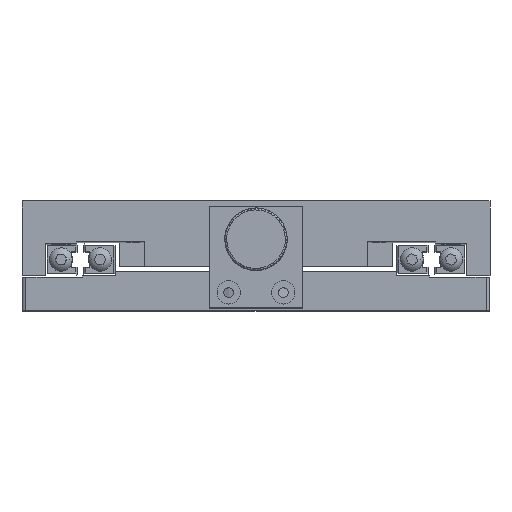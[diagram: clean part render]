
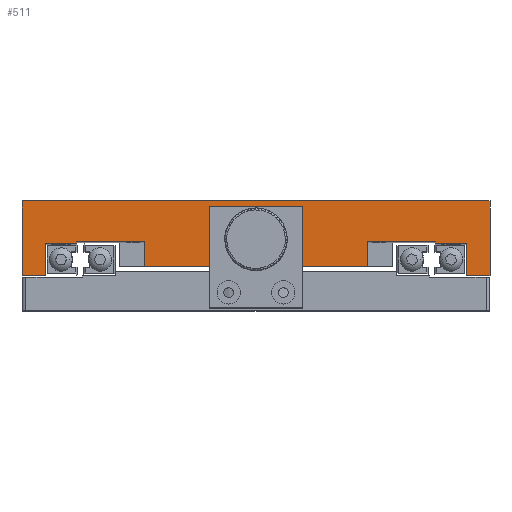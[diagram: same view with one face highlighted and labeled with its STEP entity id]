
A CAD part, top view. The second image highlights one B-rep face of the part: STEP entity #511.
In plain terms, the highlighted planar face has unit normal (0, 0, 1).
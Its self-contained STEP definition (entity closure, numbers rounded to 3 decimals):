
#511 = ADVANCED_FACE ( 'NONE', ( #6539, #6545 ), #7126, .F. ) ;
#714 = VERTEX_POINT ( 'NONE', #7798 ) ;
#720 = VERTEX_POINT ( 'NONE', #7804 ) ;
#759 = VERTEX_POINT ( 'NONE', #7843 ) ;
#762 = VERTEX_POINT ( 'NONE', #7846 ) ;
#763 = VERTEX_POINT ( 'NONE', #7847 ) ;
#765 = VERTEX_POINT ( 'NONE', #7849 ) ;
#768 = VERTEX_POINT ( 'NONE', #7852 ) ;
#771 = VERTEX_POINT ( 'NONE', #7855 ) ;
#772 = VERTEX_POINT ( 'NONE', #7856 ) ;
#777 = VERTEX_POINT ( 'NONE', #7861 ) ;
#784 = VERTEX_POINT ( 'NONE', #7868 ) ;
#786 = VERTEX_POINT ( 'NONE', #7870 ) ;
#788 = VERTEX_POINT ( 'NONE', #7872 ) ;
#791 = VERTEX_POINT ( 'NONE', #7875 ) ;
#793 = VERTEX_POINT ( 'NONE', #7877 ) ;
#796 = VERTEX_POINT ( 'NONE', #7880 ) ;
#1122 = EDGE_LOOP ( 'NONE', ( #1918 ) ) ;
#1161 = EDGE_LOOP ( 'NONE', ( #1919, #1920, #1921, #1922, #1923, #1924, #1925, #1926, #1927, #1928, #1929, #1930, #1931, #1932, #1933, #1934 ) ) ;
#1498 = EDGE_CURVE ( 'NONE', #759, #720, #8213, .T. ) ;
#1515 = EDGE_CURVE ( 'NONE', #720, #714, #8221, .T. ) ;
#1535 = EDGE_CURVE ( 'NONE', #763, #762, #8240, .T. ) ;
#1539 = EDGE_CURVE ( 'NONE', #763, #765, #8262, .T. ) ;
#1592 = EDGE_CURVE ( 'NONE', #765, #768, #8332, .T. ) ;
#1605 = EDGE_CURVE ( 'NONE', #762, #772, #8336, .T. ) ;
#1608 = EDGE_CURVE ( 'NONE', #772, #771, #8355, .T. ) ;
#1622 = EDGE_CURVE ( 'NONE', #784, #788, #8383, .T. ) ;
#1641 = EDGE_CURVE ( 'NONE', #777, #788, #8387, .T. ) ;
#1648 = EDGE_CURVE ( 'NONE', #777, #791, #8415, .T. ) ;
#1653 = EDGE_CURVE ( 'NONE', #771, #791, #8419, .T. ) ;
#1666 = EDGE_CURVE ( 'NONE', #768, #786, #8411, .T. ) ;
#1670 = EDGE_CURVE ( 'NONE', #784, #759, #8442, .T. ) ;
#1672 = EDGE_CURVE ( 'NONE', #15323, #15323, #8447, .T. ) ;
#1673 = EDGE_CURVE ( 'NONE', #786, #793, #8450, .T. ) ;
#1674 = EDGE_CURVE ( 'NONE', #793, #796, #8449, .T. ) ;
#1675 = EDGE_CURVE ( 'NONE', #714, #796, #8453, .T. ) ;
#1918 = ORIENTED_EDGE ( 'NONE', *, *, #1672, .F. ) ;
#1919 = ORIENTED_EDGE ( 'NONE', *, *, #1670, .F. ) ;
#1920 = ORIENTED_EDGE ( 'NONE', *, *, #1622, .T. ) ;
#1921 = ORIENTED_EDGE ( 'NONE', *, *, #1641, .F. ) ;
#1922 = ORIENTED_EDGE ( 'NONE', *, *, #1648, .T. ) ;
#1923 = ORIENTED_EDGE ( 'NONE', *, *, #1653, .F. ) ;
#1924 = ORIENTED_EDGE ( 'NONE', *, *, #1608, .F. ) ;
#1925 = ORIENTED_EDGE ( 'NONE', *, *, #1605, .F. ) ;
#1926 = ORIENTED_EDGE ( 'NONE', *, *, #1535, .F. ) ;
#1927 = ORIENTED_EDGE ( 'NONE', *, *, #1539, .T. ) ;
#1928 = ORIENTED_EDGE ( 'NONE', *, *, #1592, .T. ) ;
#1929 = ORIENTED_EDGE ( 'NONE', *, *, #1666, .T. ) ;
#1930 = ORIENTED_EDGE ( 'NONE', *, *, #1673, .T. ) ;
#1931 = ORIENTED_EDGE ( 'NONE', *, *, #1674, .T. ) ;
#1932 = ORIENTED_EDGE ( 'NONE', *, *, #1675, .F. ) ;
#1933 = ORIENTED_EDGE ( 'NONE', *, *, #1515, .F. ) ;
#1934 = ORIENTED_EDGE ( 'NONE', *, *, #1498, .F. ) ;
#5878 = AXIS2_PLACEMENT_3D ( 'NONE', #7124, #7131, #7132 ) ;
#6539 = FACE_BOUND ( 'NONE', #1122, .T. ) ;
#6545 = FACE_OUTER_BOUND ( 'NONE', #1161, .T. ) ;
#7124 = CARTESIAN_POINT ( 'NONE',  ( -21.395, 4.305, 60. ) ) ;
#7126 = PLANE ( 'NONE',  #5878 ) ;
#7131 = DIRECTION ( 'NONE',  ( 0., 0., -1. ) ) ;
#7132 = DIRECTION ( 'NONE',  ( 1., 0., 0. ) ) ;
#7798 = CARTESIAN_POINT ( 'NONE',  ( -75.395, 2.805, 60. ) ) ;
#7804 = CARTESIAN_POINT ( 'NONE',  ( -67.395, 2.805, 60. ) ) ;
#7843 = CARTESIAN_POINT ( 'NONE',  ( -67.395, 3.305, 60. ) ) ;
#7846 = CARTESIAN_POINT ( 'NONE',  ( 32.605, 2.805, 60. ) ) ;
#7847 = CARTESIAN_POINT ( 'NONE',  ( 32.605, -5.195, 60. ) ) ;
#7849 = CARTESIAN_POINT ( 'NONE',  ( 38.605, -5.195, 60. ) ) ;
#7852 = CARTESIAN_POINT ( 'NONE',  ( 38.605, 13.805, 60. ) ) ;
#7855 = CARTESIAN_POINT ( 'NONE',  ( 24.605, 3.305, 60. ) ) ;
#7856 = CARTESIAN_POINT ( 'NONE',  ( 24.605, 2.805, 60. ) ) ;
#7861 = CARTESIAN_POINT ( 'NONE',  ( 7.105, -2.895, 60. ) ) ;
#7868 = CARTESIAN_POINT ( 'NONE',  ( -49.895, 3.305, 60. ) ) ;
#7870 = CARTESIAN_POINT ( 'NONE',  ( -81.395, 13.805, 60. ) ) ;
#7872 = CARTESIAN_POINT ( 'NONE',  ( -49.895, -2.895, 60. ) ) ;
#7875 = CARTESIAN_POINT ( 'NONE',  ( 7.105, 3.305, 60. ) ) ;
#7877 = CARTESIAN_POINT ( 'NONE',  ( -81.395, -5.195, 60. ) ) ;
#7880 = CARTESIAN_POINT ( 'NONE',  ( -75.395, -5.195, 60. ) ) ;
#7979 = CARTESIAN_POINT ( 'NONE',  ( -67.395, 3.305, 60. ) ) ;
#8042 = DIRECTION ( 'NONE',  ( 0., -1., 0. ) ) ;
#8073 = CARTESIAN_POINT ( 'NONE',  ( -67.395, 2.805, 60. ) ) ;
#8087 = DIRECTION ( 'NONE',  ( -1., 0., 0. ) ) ;
#8130 = CARTESIAN_POINT ( 'NONE',  ( 32.605, -5.195, 60. ) ) ;
#8146 = DIRECTION ( 'NONE',  ( 0., 1., 0. ) ) ;
#8151 = CARTESIAN_POINT ( 'NONE',  ( 38.605, -5.195, 60. ) ) ;
#8153 = DIRECTION ( 'NONE',  ( 1., 0., 0. ) ) ;
#8213 = LINE ( 'NONE', #7979, #8214 ) ;
#8214 = VECTOR ( 'NONE', #8042, 1000. ) ;
#8221 = LINE ( 'NONE', #8073, #8235 ) ;
#8235 = VECTOR ( 'NONE', #8087, 1000. ) ;
#8240 = LINE ( 'NONE', #8130, #8258 ) ;
#8258 = VECTOR ( 'NONE', #8146, 1000. ) ;
#8262 = LINE ( 'NONE', #8151, #8265 ) ;
#8265 = VECTOR ( 'NONE', #8153, 1000. ) ;
#8332 = LINE ( 'NONE', #8861, #8339 ) ;
#8336 = LINE ( 'NONE', #8945, #8353 ) ;
#8339 = VECTOR ( 'NONE', #8873, 1000. ) ;
#8353 = VECTOR ( 'NONE', #8960, 1000. ) ;
#8355 = LINE ( 'NONE', #8965, #8358 ) ;
#8358 = VECTOR ( 'NONE', #8966, 1000. ) ;
#8383 = LINE ( 'NONE', #8991, #8386 ) ;
#8386 = VECTOR ( 'NONE', #8992, 1000. ) ;
#8387 = LINE ( 'NONE', #9035, #8407 ) ;
#8407 = VECTOR ( 'NONE', #9049, 1000. ) ;
#8411 = LINE ( 'NONE', #9111, #8441 ) ;
#8415 = LINE ( 'NONE', #9063, #8418 ) ;
#8418 = VECTOR ( 'NONE', #9064, 1000. ) ;
#8419 = LINE ( 'NONE', #9065, #8425 ) ;
#8425 = VECTOR ( 'NONE', #9079, 1000. ) ;
#8441 = VECTOR ( 'NONE', #9113, 1000. ) ;
#8442 = LINE ( 'NONE', #9115, #8446 ) ;
#8446 = VECTOR ( 'NONE', #9114, 1000. ) ;
#8447 = CIRCLE ( 'NONE', #9284, 4. ) ;
#8449 = LINE ( 'NONE', #9119, #8451 ) ;
#8450 = LINE ( 'NONE', #9123, #8452 ) ;
#8451 = VECTOR ( 'NONE', #9134, 1000. ) ;
#8452 = VECTOR ( 'NONE', #9132, 1000. ) ;
#8453 = LINE ( 'NONE', #9135, #8455 ) ;
#8455 = VECTOR ( 'NONE', #9136, 1000. ) ;
#8861 = CARTESIAN_POINT ( 'NONE',  ( 38.605, 13.805, 60. ) ) ;
#8873 = DIRECTION ( 'NONE',  ( 0., 1., 0. ) ) ;
#8945 = CARTESIAN_POINT ( 'NONE',  ( 32.605, 2.805, 60. ) ) ;
#8960 = DIRECTION ( 'NONE',  ( -1., 0., 0. ) ) ;
#8965 = CARTESIAN_POINT ( 'NONE',  ( 24.605, 2.805, 60. ) ) ;
#8966 = DIRECTION ( 'NONE',  ( 0., 1., 0. ) ) ;
#8991 = CARTESIAN_POINT ( 'NONE',  ( -49.895, 4.305, 60. ) ) ;
#8992 = DIRECTION ( 'NONE',  ( 0., -1., 0. ) ) ;
#9035 = CARTESIAN_POINT ( 'NONE',  ( 13.605, -2.895, 60. ) ) ;
#9049 = DIRECTION ( 'NONE',  ( -1., 0., 0. ) ) ;
#9063 = CARTESIAN_POINT ( 'NONE',  ( 7.105, 4.305, 60. ) ) ;
#9064 = DIRECTION ( 'NONE',  ( 0., 1., 0. ) ) ;
#9065 = CARTESIAN_POINT ( 'NONE',  ( 24.605, 3.305, 60. ) ) ;
#9079 = DIRECTION ( 'NONE',  ( -1., 0., 0. ) ) ;
#9111 = CARTESIAN_POINT ( 'NONE',  ( 38.605, 13.805, 60. ) ) ;
#9113 = DIRECTION ( 'NONE',  ( -1., 0., 0. ) ) ;
#9114 = DIRECTION ( 'NONE',  ( -1., 0., 0. ) ) ;
#9115 = CARTESIAN_POINT ( 'NONE',  ( -56.395, 3.305, 60. ) ) ;
#9119 = CARTESIAN_POINT ( 'NONE',  ( 38.605, -5.195, 60. ) ) ;
#9123 = CARTESIAN_POINT ( 'NONE',  ( -81.395, 13.805, 60. ) ) ;
#9129 = CARTESIAN_POINT ( 'NONE',  ( -21.395, 3.805, 60. ) ) ;
#9130 = DIRECTION ( 'NONE',  ( 0., 0., 1. ) ) ;
#9131 = DIRECTION ( 'NONE',  ( -1., 0., 0. ) ) ;
#9132 = DIRECTION ( 'NONE',  ( 0., -1., 0. ) ) ;
#9134 = DIRECTION ( 'NONE',  ( 1., 0., 0. ) ) ;
#9135 = CARTESIAN_POINT ( 'NONE',  ( -75.395, 2.805, 60. ) ) ;
#9136 = DIRECTION ( 'NONE',  ( 0., -1., 0. ) ) ;
#9284 = AXIS2_PLACEMENT_3D ( 'NONE', #9129, #9130, #9131 ) ;
#15099 = CARTESIAN_POINT ( 'NONE',  ( -25.395, 3.805, 60. ) ) ;
#15323 = VERTEX_POINT ( 'NONE', #15099 ) ;
